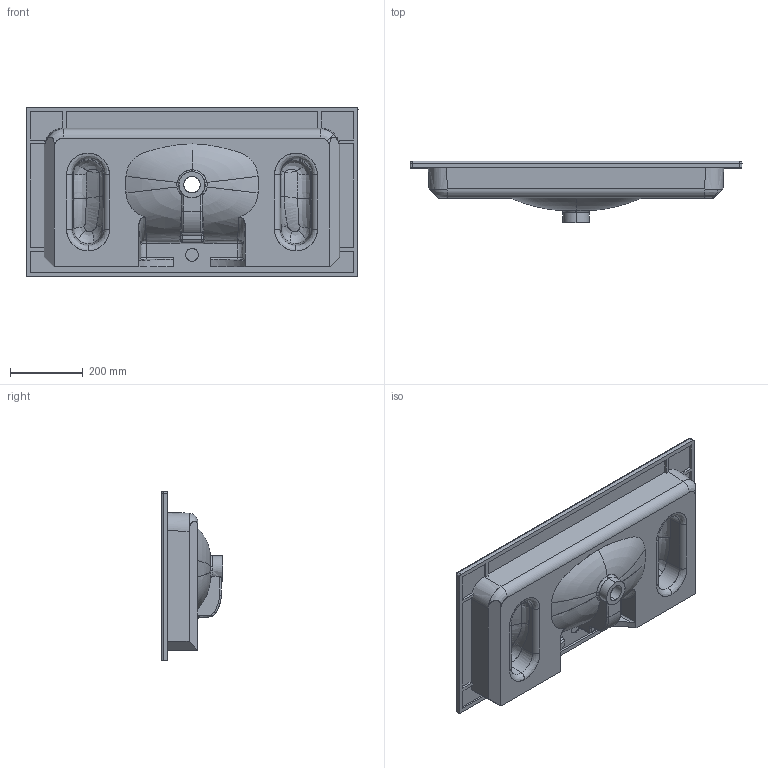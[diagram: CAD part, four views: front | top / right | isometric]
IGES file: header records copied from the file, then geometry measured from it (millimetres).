
Start section: SolidWorks IGES file using NURBS representation for surfaces
Global section: file name: C:\Users\User\Desktop\Soft\lavabi definitivi soft 46 m\soft 910 x 465\definitivo soft 910 x 465.IGS; native system: SolidWorks 2016; preprocessor: SolidWorks 2016; author: User; date: 200804.153038; units: millimetre
Bounding box: 910 x 168 x 465 mm (x, y, z)
Surface area: 1243964.5 mm2 (no closed solid volume)
Topology: 0 solids, 0 shells, 193 faces, 2918 edges, 2910 vertices
Faces by surface type: bspline 193
